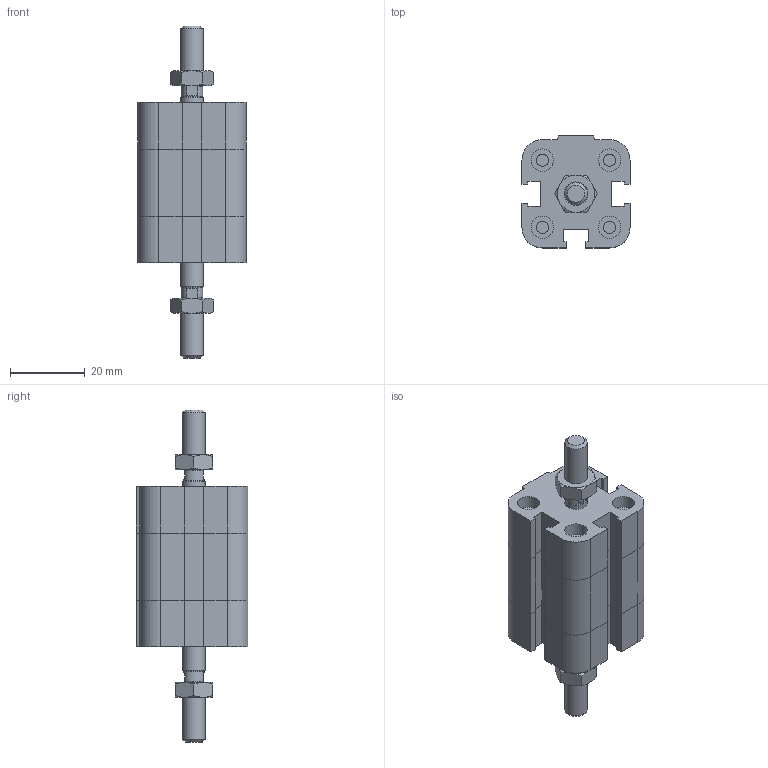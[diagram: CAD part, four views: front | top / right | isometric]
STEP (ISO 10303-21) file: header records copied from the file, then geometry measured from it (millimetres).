
FILE_DESCRIPTION((''),'2;1');
FILE_NAME('I:\Area Tecnica\Disegni\VARIE-3D\Componenti\EUROPE\15##_###_####_04_#\1581_12_0005_04_1.iam.stp','2009-04-20T14:49:06',(''),(''),'Autodesk Inventor 2009','Autodesk Inventor 2009','');
FILE_SCHEMA(('AUTOMOTIVE_DESIGN { 1 0 10303 214 1 1 1 1 }'));
Length unit declared in the file: millimetre
Products named in the file (4): 1581_12_0005_04_1; 1581_12_0005_03_1_C; 1561_12_0005_04_1_S; DBM6
Assembly tree (4 placements, depth 2):
  1581_12_0005_04_1
    1581_12_0005_03_1_C
    1561_12_0005_04_1_S
    DBM6  x2
Bounding box: 29 x 30 x 89 mm (x, y, z)
Volume: 31213.5 mm3; surface area: 12855.4 mm2
Topology: 4 solids, 4 shells, 224 faces, 491 edges, 293 vertices
Faces by surface type: plane 131, cone 35, bspline 33, cylinder 25
Full cylindrical faces by diameter (mm): 3.242 x4, 5 x1, 5.8 x2, 6 x6
Entity records: 5503 total; most frequent: CARTESIAN_POINT 1232, DIRECTION 814, ORIENTED_EDGE 784, EDGE_CURVE 392, AXIS2_PLACEMENT_3D 276, VECTOR 262, LINE 262, EDGE_LOOP 258
